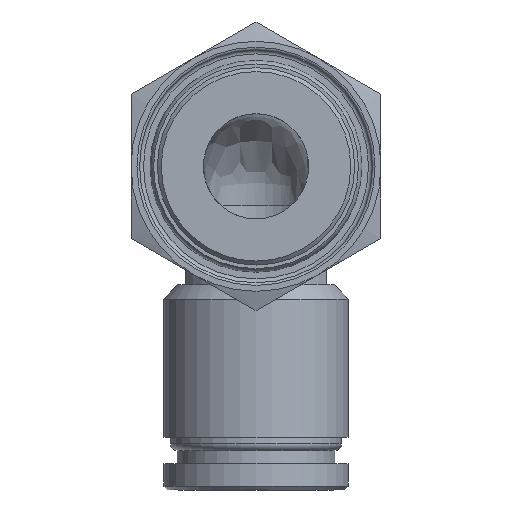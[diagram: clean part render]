
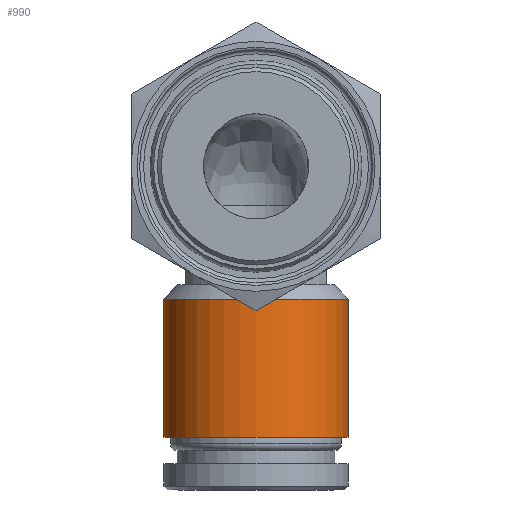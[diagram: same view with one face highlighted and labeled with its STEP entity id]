
A CAD part, front view. The second image highlights one B-rep face of the part: STEP entity #990.
In plain terms, the highlighted cylindrical face has radius 7 mm (diameter 14 mm), a full revolution.
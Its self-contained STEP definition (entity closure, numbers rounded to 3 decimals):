
#168=FACE_OUTER_BOUND('',#245,.T.);
#245=EDGE_LOOP('',(#845,#846,#847,#848));
#287=LINE('',#1845,#321);
#321=VECTOR('',#1478,7.);
#389=CIRCLE('',#1182,7.);
#392=CIRCLE('',#1188,7.);
#480=VERTEX_POINT('',#1832);
#482=VERTEX_POINT('',#1842);
#604=EDGE_CURVE('',#480,#480,#389,.T.);
#608=EDGE_CURVE('',#482,#482,#392,.T.);
#609=EDGE_CURVE('',#480,#482,#287,.T.);
#845=ORIENTED_EDGE('',*,*,#604,.F.);
#846=ORIENTED_EDGE('',*,*,#609,.T.);
#847=ORIENTED_EDGE('',*,*,#608,.T.);
#848=ORIENTED_EDGE('',*,*,#609,.F.);
#934=CYLINDRICAL_SURFACE('',#1189,7.);
#990=ADVANCED_FACE('',(#168),#934,.T.);
#1182=AXIS2_PLACEMENT_3D('',#1834,#1461,#1462);
#1188=AXIS2_PLACEMENT_3D('',#1843,#1474,#1475);
#1189=AXIS2_PLACEMENT_3D('',#1844,#1476,#1477);
#1461=DIRECTION('center_axis',(0.,0.,1.));
#1462=DIRECTION('ref_axis',(1.,0.,0.));
#1474=DIRECTION('center_axis',(0.,0.,1.));
#1475=DIRECTION('ref_axis',(1.,0.,0.));
#1476=DIRECTION('center_axis',(0.,0.,1.));
#1477=DIRECTION('ref_axis',(0.,-1.,0.));
#1478=DIRECTION('',(0.,0.,-1.));
#1832=CARTESIAN_POINT('',(0.,17.3,-10.1));
#1834=CARTESIAN_POINT('Origin',(0.,10.3,-10.1));
#1842=CARTESIAN_POINT('',(0.,17.3,-20.6));
#1843=CARTESIAN_POINT('Origin',(0.,10.3,-20.6));
#1844=CARTESIAN_POINT('Origin',(0.,10.3,-15.35));
#1845=CARTESIAN_POINT('',(0.,17.3,-15.35));
